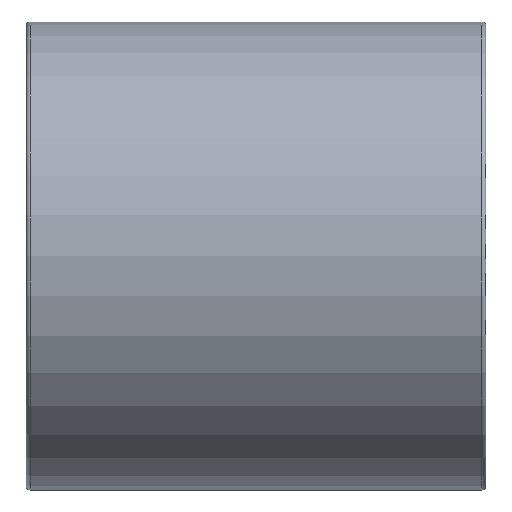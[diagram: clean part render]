
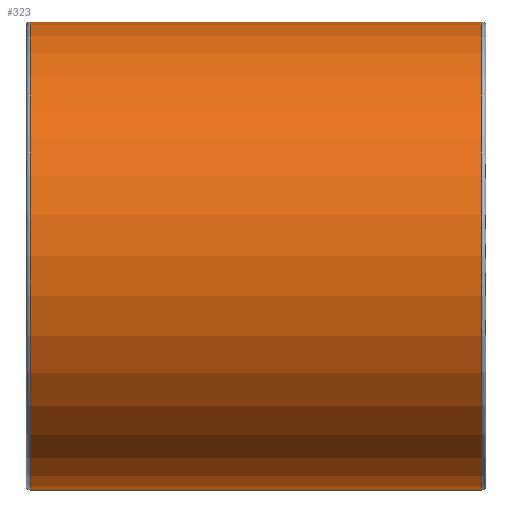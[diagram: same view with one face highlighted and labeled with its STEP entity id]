
A CAD part, top view. The second image highlights one B-rep face of the part: STEP entity #323.
In plain terms, the highlighted cylindrical face has radius 29 mm (diameter 58 mm), a partial arc.
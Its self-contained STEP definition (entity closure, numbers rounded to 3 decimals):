
#203=CARTESIAN_POINT('Vertex',(56.5,-29.,0.)) ;
#210=CARTESIAN_POINT('Vertex',(56.5,29.,0.)) ;
#230=CARTESIAN_POINT('Axis2P3D Location',(56.5,0.,0.)) ;
#251=CARTESIAN_POINT('Vertex',(0.5,29.,0.)) ;
#258=CARTESIAN_POINT('Vertex',(0.5,-29.,0.)) ;
#261=CARTESIAN_POINT('Axis2P3D Location',(0.5,0.,0.)) ;
#295=CARTESIAN_POINT('Line Origine',(28.5,29.,0.)) ;
#300=CARTESIAN_POINT('Line Origine',(28.5,-29.,0.)) ;
#312=CARTESIAN_POINT('Axis2P3D Location',(28.5,0.,0.)) ;
#231=DIRECTION('Axis2P3D Direction',(1.,-0.,0.)) ;
#262=DIRECTION('Axis2P3D Direction',(1.,-0.,0.)) ;
#296=DIRECTION('Vector Direction',(1.,0.,0.)) ;
#301=DIRECTION('Vector Direction',(1.,0.,0.)) ;
#313=DIRECTION('Axis2P3D Direction',(1.,0.,0.)) ;
#314=DIRECTION('Axis2P3D XDirection',(0.,1.,0.)) ;
#232=AXIS2_PLACEMENT_3D('Circle Axis2P3D',#230,#231,$) ;
#263=AXIS2_PLACEMENT_3D('Circle Axis2P3D',#261,#262,$) ;
#315=AXIS2_PLACEMENT_3D('Cylinder Axis2P3D',#312,#313,#314) ;
#318=ORIENTED_EDGE('',*,*,#304,.T.) ;
#319=ORIENTED_EDGE('',*,*,#234,.F.) ;
#320=ORIENTED_EDGE('',*,*,#299,.F.) ;
#321=ORIENTED_EDGE('',*,*,#265,.T.) ;
#297=VECTOR('Line Direction',#296,1.) ;
#302=VECTOR('Line Direction',#301,1.) ;
#323=ADVANCED_FACE('STM40',(#322),#316,.T.) ;
#233=CIRCLE('generated circle',#232,29.) ;
#264=CIRCLE('generated circle',#263,29.) ;
#316=CYLINDRICAL_SURFACE('generated cylinder',#315,29.) ;
#234=EDGE_CURVE('',#211,#204,#233,.T.) ;
#265=EDGE_CURVE('',#252,#259,#264,.T.) ;
#299=EDGE_CURVE('',#252,#211,#298,.T.) ;
#304=EDGE_CURVE('',#259,#204,#303,.T.) ;
#317=EDGE_LOOP('',(#318,#319,#320,#321)) ;
#322=FACE_OUTER_BOUND('',#317,.T.) ;
#298=LINE('Line',#295,#297) ;
#303=LINE('Line',#300,#302) ;
#204=VERTEX_POINT('',#203) ;
#211=VERTEX_POINT('',#210) ;
#252=VERTEX_POINT('',#251) ;
#259=VERTEX_POINT('',#258) ;
